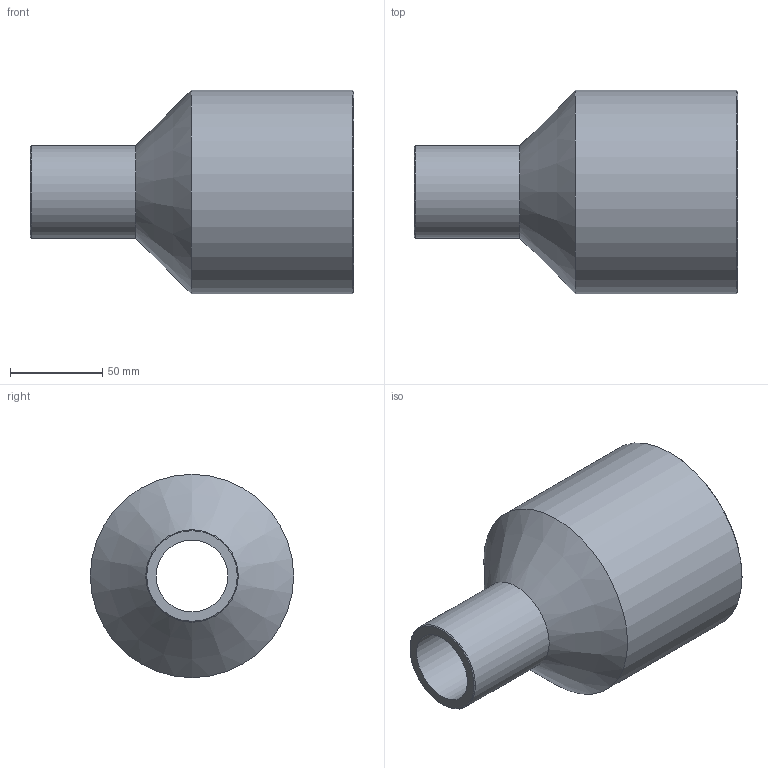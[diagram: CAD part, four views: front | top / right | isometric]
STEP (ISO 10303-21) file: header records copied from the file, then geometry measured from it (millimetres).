
FILE_DESCRIPTION(/* description */ ('Unknown'),/* implementation_level */ '2;1');
FILE_NAME(/* name */ 'RP110050G',/* time_stamp */ '2021-09-16T15:22:02+02:00',/* author */ ('Unknown'),/* organization */ ('Unknown'),/* preprocessor_version */ 'ST-DEVELOPER v16.7',/* originating_system */ 'Solid Edge',/* authorisation */ 'Unknown');
FILE_SCHEMA (('AUTOMOTIVE_DESIGN {1 0 10303 214 3 1 1}'));
Length unit declared in the file: millimetre
Products named in the file (1): RP110050G
Bounding box: 175 x 110 x 110 mm (x, y, z)
Volume: 468117.2 mm3; surface area: 91584.7 mm2
Topology: 1 solids, 1 shells, 10 faces, 19 edges, 11 vertices
Faces by surface type: cylinder 4, cone 4, plane 2
Full cylindrical faces by diameter (mm): 38.8 x1, 50 x1, 85.4 x1, 110 x1
Entity records: 238 total; most frequent: DIRECTION 42, CARTESIAN_POINT 31, AXIS2_PLACEMENT_3D 21, ORIENTED_EDGE 20, EDGE_LOOP 20, FACE_BOUND 20, EDGE_CURVE 10, VERTEX_POINT 10
